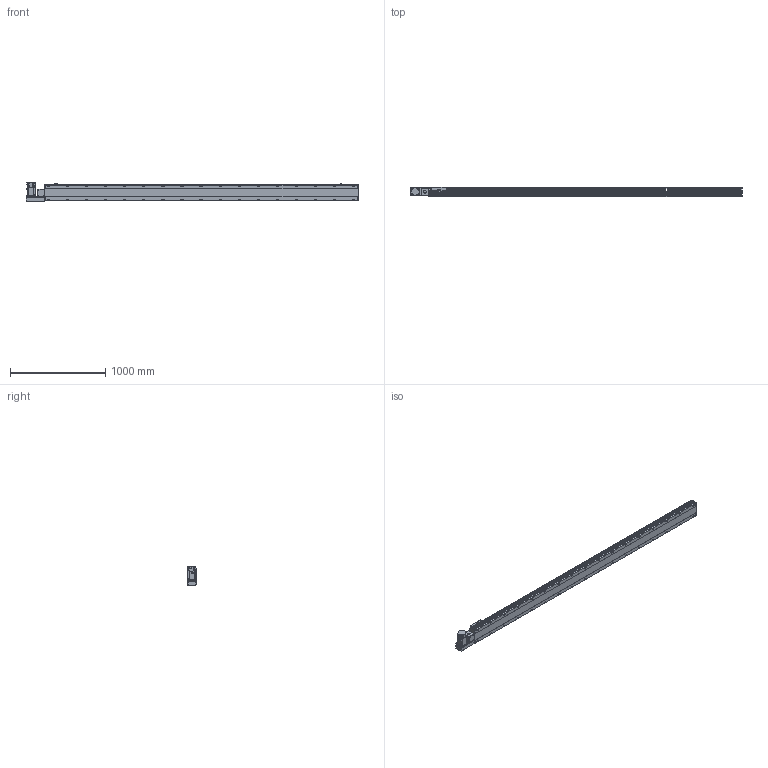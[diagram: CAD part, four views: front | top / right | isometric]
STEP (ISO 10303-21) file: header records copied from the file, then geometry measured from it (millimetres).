
FILE_DESCRIPTION( ( 'STEP AP214' ), '1' );
FILE_NAME( 'x:/temp/worker_4/temp/exporttempdir_2248_224_yQgFF/format_0/PBS170-P40-S3000-L-T75-C1-N(0).stp', '2022-06-07T06:59:34', ( 'License CC BY-ND 4.0' ), ( 'CADENAS' ), ' ', 'PARTsolutions', ' ' );
FILE_SCHEMA( ( 'AUTOMOTIVE_DESIGN { 1 0 10303 214 1 1 1 1 }' ) );
Length unit declared in the file: millimetre
Products named in the file (7): PBS170-P40-S3000-L-T75-C1-N(0); _PBS170-S3000()_body; _PBS170T-L_motors; _T75-p1; _PBS170_sliser; _PBS170_plant; _PBS170_sensor
Assembly tree (8 placements, depth 2):
  PBS170-P40-S3000-L-T75-C1-N(0)
    _PBS170-S3000()_body
    _PBS170T-L_motors
    _T75-p1
    _PBS170_sliser
    _PBS170_plant
    _PBS170_sensor  x3
Bounding box: 3478 x 97 x 197.3 mm (x, y, z)
Volume: 25243265.2 mm3; surface area: 3158626.8 mm2
Topology: 8 solids, 8 shells, 1226 faces, 3235 edges, 2108 vertices
Faces by surface type: plane 741, cylinder 411, cone 64, sphere 8, torus 2
Full cylindrical faces by diameter (mm): 3.242 x4, 4 x2, 4.4 x4, 4.5 x6, 4.917 x4, 6 x9, 6.647 x42, 7 x2, 7.5 x4, 8 x8, 8.5 x34, 10 x4, 10.5 x34, 11 x2, 30 x2, 40 x1, 70 x1
Entity records: 45518 total; most frequent: CARTESIAN_POINT 7733, DIRECTION 5930, ORIENTED_EDGE 5568, EDGE_CURVE 2784, AXIS2_PLACEMENT_3D 2107, VERTEX_POINT 1946, LINE 1716, VECTOR 1716
